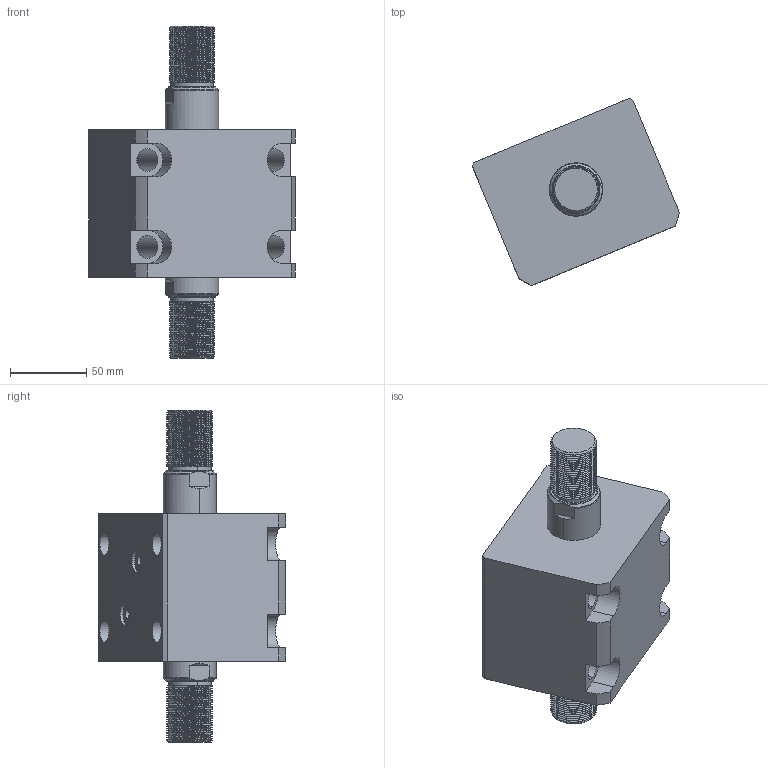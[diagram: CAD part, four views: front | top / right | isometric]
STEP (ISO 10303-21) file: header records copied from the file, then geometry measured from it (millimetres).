
FILE_DESCRIPTION (( 'STEP AP214' ), '1' );
FILE_NAME ('chtb-lwm63x15w_asm.STEP', '2018-05-22T11:10:29', ( '' ), ( '' ), 'SwSTEP 2.0', 'SolidWorks 2016', '' );
FILE_SCHEMA (( 'AUTOMOTIVE_DESIGN' ));
Length unit declared in the file: millimetre
Products named in the file (4): CHTB-SW63X15WHSG; CHTB-LWM63X15NBT; CHTB-63QG; chtb-lwm63x15w_asm
Assembly tree (3 placements, depth 2):
  chtb-lwm63x15w_asm
    CHTB-63QG
    CHTB-LWM63X15NBT
    CHTB-SW63X15WHSG
Bounding box: 135.77 x 123.03 x 218 mm (x, y, z)
Volume: 961536.2 mm3; surface area: 145579.3 mm2
Topology: 3 solids, 3 shells, 285 faces, 836 edges, 565 vertices
Faces by surface type: cylinder 198, plane 47, bspline 16, cone 12, torus 12
Entity records: 27223 total; most frequent: CARTESIAN_POINT 20437, ORIENTED_EDGE 1664, DIRECTION 1115, EDGE_CURVE 832, VERTEX_POINT 565, AXIS2_PLACEMENT_3D 416, EDGE_LOOP 313, FACE_OUTER_BOUND 285
